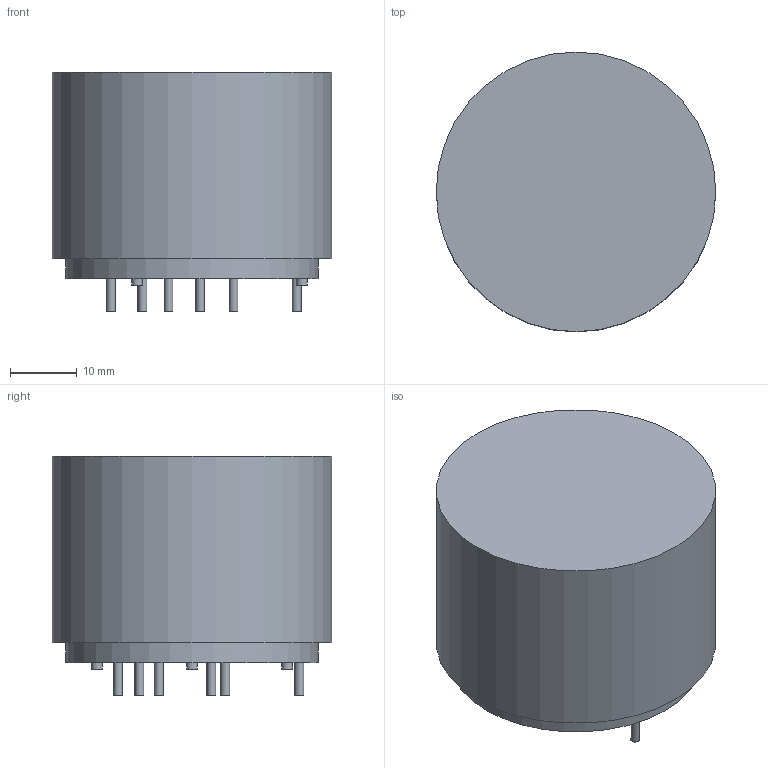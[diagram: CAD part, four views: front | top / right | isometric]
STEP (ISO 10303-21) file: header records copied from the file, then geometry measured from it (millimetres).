
FILE_DESCRIPTION(/* description */ (''),/* implementation_level */ '2;1');
FILE_NAME(/* name */ 'F:\Done\2016\多产品3D模拟\终版\新建文件夹\6123-X308\6123-X308 3D Model.stp',/* time_stamp */ '2016-07-12T14:35:46+08:00',/* author */ ('CN000562'),/* organization */ (''),/* preprocessor_version */ 'ST-DEVELOPER v16.5',/* originating_system */ 'Autodesk Inventor 2017',/* authorisation */ '');
FILE_SCHEMA (('AUTOMOTIVE_DESIGN { 1 0 10303 214 3 1 1 }'));
Length unit declared in the file: millimetre
Products named in the file (1): 6123-X316
Bounding box: 42 x 42 x 36 mm (x, y, z)
Volume: 42235.2 mm3; surface area: 6974.4 mm2
Topology: 1 solids, 1 shells, 26 faces, 40 edges, 26 vertices
Faces by surface type: cylinder 13, plane 13
Full cylindrical faces by diameter (mm): 1.32 x6, 1.65 x3, 42 x1
Entity records: 574 total; most frequent: DIRECTION 110, CARTESIAN_POINT 83, ORIENTED_EDGE 60, AXIS2_PLACEMENT_3D 53, EDGE_LOOP 46, EDGE_CURVE 30, FACE_OUTER_BOUND 26, CIRCLE 26
